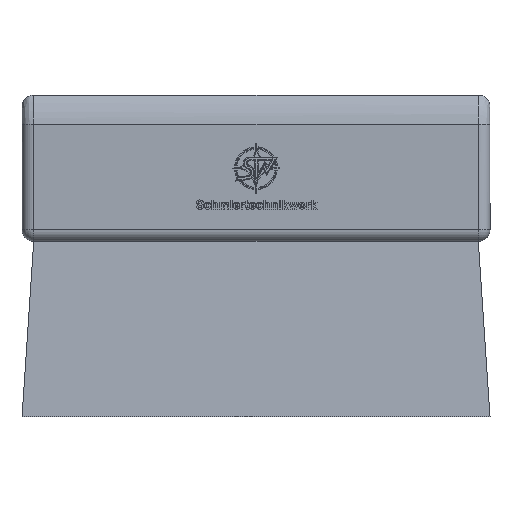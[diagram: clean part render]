
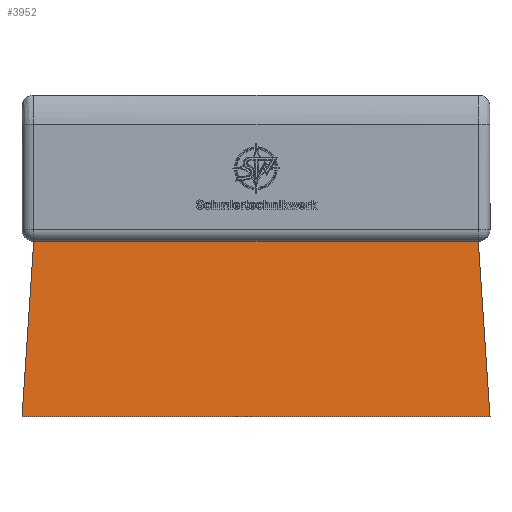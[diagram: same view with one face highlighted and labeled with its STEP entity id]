
A CAD part, top view. The second image highlights one B-rep face of the part: STEP entity #3952.
In plain terms, the highlighted planar face has unit normal (0, 0.067, 0.998).
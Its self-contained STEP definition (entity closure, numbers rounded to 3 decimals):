
#487 = VECTOR ( 'NONE', #7939, 1000. ) ;
#628 = LINE ( 'NONE', #19274, #17106 ) ;
#1561 = VERTEX_POINT ( 'NONE', #16508 ) ;
#1873 = DIRECTION ( 'NONE',  ( 0.066, 0.996, -0.066 ) ) ;
#2954 = LINE ( 'NONE', #6361, #3900 ) ;
#3351 = EDGE_CURVE ( 'NONE', #8300, #1561, #19130, .T. ) ;
#3683 = VECTOR ( 'NONE', #6067, 1000. ) ;
#3849 = DIRECTION ( 'NONE',  ( 0., 0.998, -0.067 ) ) ;
#3900 = VECTOR ( 'NONE', #12386, 1000. ) ;
#3952 = ADVANCED_FACE ( 'NONE', ( #5195 ), #11511, .F. ) ;
#4195 = ORIENTED_EDGE ( 'NONE', *, *, #15681, .F. ) ;
#4306 = VERTEX_POINT ( 'NONE', #18533 ) ;
#4623 = LINE ( 'NONE', #10926, #3683 ) ;
#4976 = ORIENTED_EDGE ( 'NONE', *, *, #3351, .T. ) ;
#5195 = FACE_OUTER_BOUND ( 'NONE', #15298, .T. ) ;
#6067 = DIRECTION ( 'NONE',  ( -1., 0., 0. ) ) ;
#6361 = CARTESIAN_POINT ( 'NONE',  ( -50., 30., 8. ) ) ;
#7939 = DIRECTION ( 'NONE',  ( -0.066, 0.996, -0.066 ) ) ;
#8300 = VERTEX_POINT ( 'NONE', #14391 ) ;
#8889 = EDGE_CURVE ( 'NONE', #8300, #4306, #4623, .T. ) ;
#9121 = AXIS2_PLACEMENT_3D ( 'NONE', #17843, #18045, #3849 ) ;
#10557 = VERTEX_POINT ( 'NONE', #19920 ) ;
#10926 = CARTESIAN_POINT ( 'NONE',  ( 0., 0., 10. ) ) ;
#11511 = PLANE ( 'NONE',  #9121 ) ;
#12386 = DIRECTION ( 'NONE',  ( 1., 0., 0. ) ) ;
#12778 = ORIENTED_EDGE ( 'NONE', *, *, #18581, .F. ) ;
#14391 = CARTESIAN_POINT ( 'NONE',  ( 40., 0., 10. ) ) ;
#15298 = EDGE_LOOP ( 'NONE', ( #19670, #4976, #4195, #12778 ) ) ;
#15681 = EDGE_CURVE ( 'NONE', #10557, #1561, #2954, .T. ) ;
#16508 = CARTESIAN_POINT ( 'NONE',  ( 38., 30., 8. ) ) ;
#17106 = VECTOR ( 'NONE', #1873, 1000. ) ;
#17482 = CARTESIAN_POINT ( 'NONE',  ( 39.824, 2.643, 9.824 ) ) ;
#17843 = CARTESIAN_POINT ( 'NONE',  ( -50., 0., 10. ) ) ;
#18045 = DIRECTION ( 'NONE',  ( 0., -0.067, -0.998 ) ) ;
#18533 = CARTESIAN_POINT ( 'NONE',  ( -40., 0., 10. ) ) ;
#18581 = EDGE_CURVE ( 'NONE', #4306, #10557, #628, .T. ) ;
#19130 = LINE ( 'NONE', #17482, #487 ) ;
#19274 = CARTESIAN_POINT ( 'NONE',  ( -39.824, 2.643, 9.824 ) ) ;
#19670 = ORIENTED_EDGE ( 'NONE', *, *, #8889, .F. ) ;
#19920 = CARTESIAN_POINT ( 'NONE',  ( -38., 30., 8. ) ) ;
